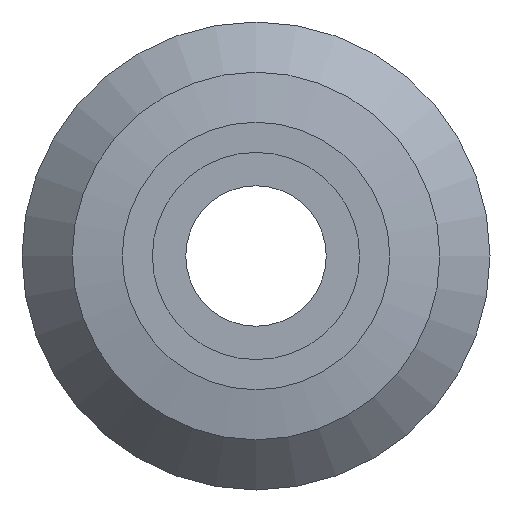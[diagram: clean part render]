
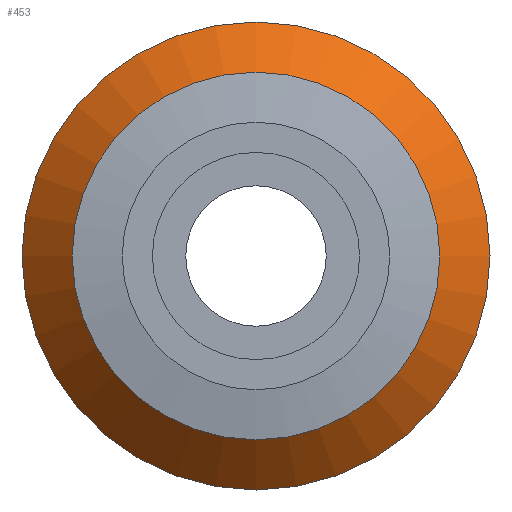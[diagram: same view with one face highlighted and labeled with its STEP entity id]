
A CAD part, front view. The second image highlights one B-rep face of the part: STEP entity #453.
In plain terms, the highlighted conical face has half-angle 45 degrees and reference radius 6.25 mm.
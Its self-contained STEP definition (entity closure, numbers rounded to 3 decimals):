
#411=CARTESIAN_POINT('',(-5.5,3.5,0.0));
#412=VERTEX_POINT('',#411);
#413=CARTESIAN_POINT('',(0.0,3.5,0.0));
#414=DIRECTION('',(0.0,1.0,0.0));
#415=DIRECTION('',(-1.0,0.0,0.0));
#416=AXIS2_PLACEMENT_3D('',#413,#414,#415);
#417=CIRCLE('',#416,5.5);
#418=EDGE_CURVE('',#412,#412,#417,.T.);
#434=CARTESIAN_POINT('',(0.0,4.25,0.0));
#435=DIRECTION('',(0.0,1.0,0.0));
#436=DIRECTION('',(-1.0,0.0,0.0));
#437=AXIS2_PLACEMENT_3D('',#434,#435,#436);
#438=CONICAL_SURFACE('',#437,6.25,45.);
#439=CARTESIAN_POINT('',(-7.,5.,0.0));
#440=VERTEX_POINT('',#439);
#441=CARTESIAN_POINT('',(0.0,5.,0.0));
#442=DIRECTION('',(0.0,1.0,0.0));
#443=DIRECTION('',(-1.0,0.0,0.0));
#444=AXIS2_PLACEMENT_3D('',#441,#442,#443);
#445=CIRCLE('',#444,7.);
#446=EDGE_CURVE('',#440,#440,#445,.T.);
#447=ORIENTED_EDGE('',*,*,#446,.F.);
#448=EDGE_LOOP('',(#447));
#449=FACE_OUTER_BOUND('',#448,.T.);
#450=ORIENTED_EDGE('',*,*,#418,.T.);
#451=EDGE_LOOP('',(#450));
#452=FACE_BOUND('',#451,.T.);
#453=ADVANCED_FACE('',(#449,#452),#438,.T.);
